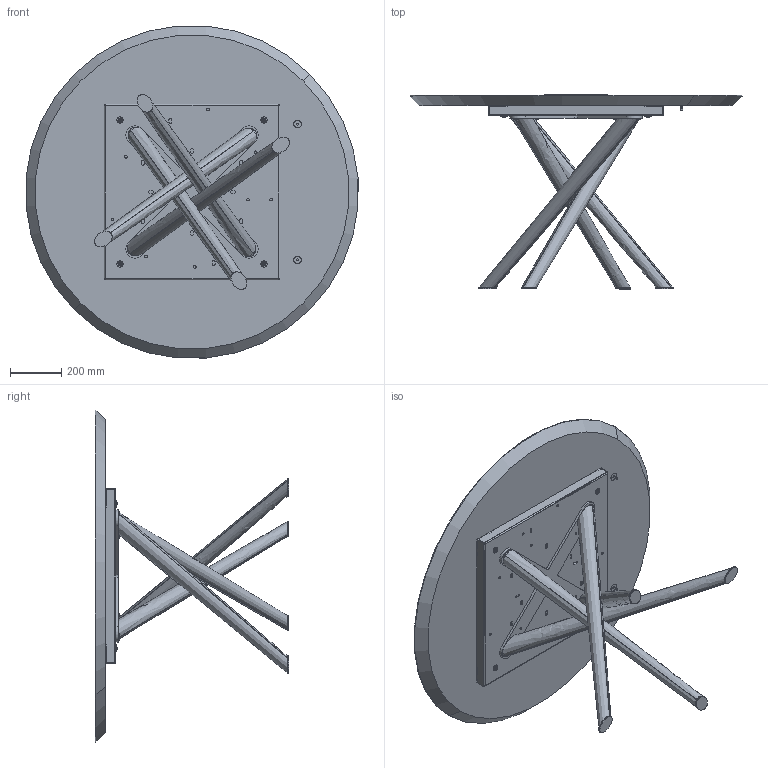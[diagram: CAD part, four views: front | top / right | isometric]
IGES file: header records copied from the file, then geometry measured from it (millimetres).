
Start section: SolidWorks IGES file using analytic representation for surfaces
Global section: file name: Y:\eforma\TECNICO\SOLIDWORKS\E-FORMA\1-TAVOLI\BALY\02 parts\BA05W.IGS; native system: SolidWorks 2022; preprocessor: SolidWorks 2022; author: eforma.tech; date: 240808.084134; units: millimetre
Bounding box: 1295.05 x 755 x 1295.05 mm (x, y, z)
Volume: 55053436.5 mm3; surface area: 5559168.5 mm2
Topology: 43 solids, 43 shells, 1103 faces, 2645 edges, 1612 vertices
Faces by surface type: revolution 649, plane 446, bspline 8
